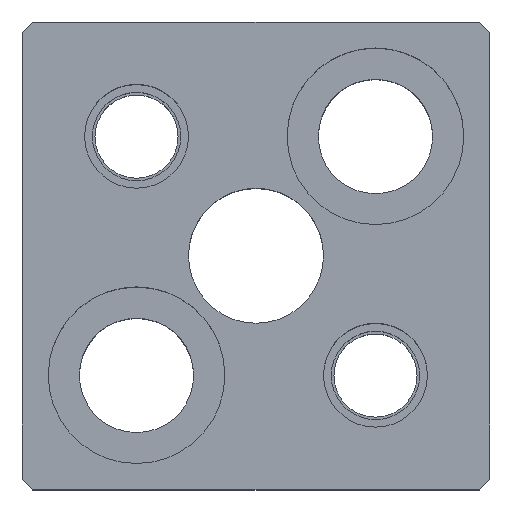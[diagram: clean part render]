
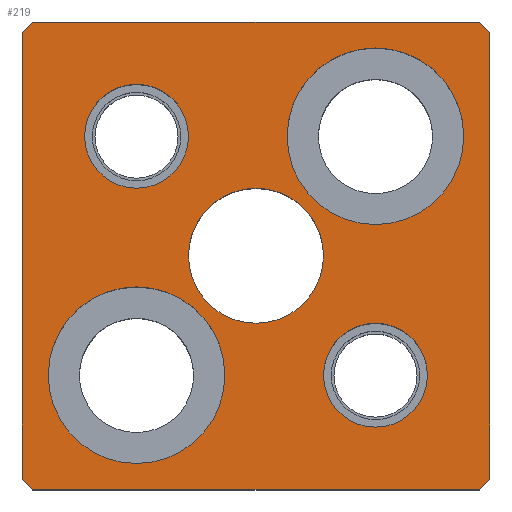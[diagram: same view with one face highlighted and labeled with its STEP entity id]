
A CAD part, top view. The second image highlights one B-rep face of the part: STEP entity #219.
In plain terms, the highlighted planar face has unit normal (0, 0, 1).
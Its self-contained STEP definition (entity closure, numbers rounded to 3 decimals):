
#99=FACE_BOUND('',#325,.T.);
#100=FACE_BOUND('',#326,.T.);
#101=FACE_BOUND('',#327,.T.);
#102=FACE_BOUND('',#328,.T.);
#103=FACE_BOUND('',#329,.T.);
#104=FACE_BOUND('',#330,.T.);
#149=CIRCLE('',#916,5.);
#151=CIRCLE('',#919,5.);
#153=CIRCLE('',#922,5.);
#155=CIRCLE('',#925,5.);
#165=CIRCLE('',#940,8.5);
#166=CIRCLE('',#941,8.5);
#167=CIRCLE('',#942,8.5);
#168=CIRCLE('',#943,8.5);
#169=CIRCLE('',#944,6.5);
#170=CIRCLE('',#945,6.5);
#219=ADVANCED_FACE('',(#99,#100,#101,#102,#103,#104),#258,.T.);
#258=PLANE('',#946);
#325=EDGE_LOOP('',(#461,#462,#463,#464,#465,#466,#467,#468));
#326=EDGE_LOOP('',(#469,#470));
#327=EDGE_LOOP('',(#471,#472));
#328=EDGE_LOOP('',(#473,#474));
#329=EDGE_LOOP('',(#475,#476));
#330=EDGE_LOOP('',(#477,#478));
#461=ORIENTED_EDGE('',*,*,#683,.T.);
#462=ORIENTED_EDGE('',*,*,#680,.T.);
#463=ORIENTED_EDGE('',*,*,#698,.T.);
#464=ORIENTED_EDGE('',*,*,#695,.T.);
#465=ORIENTED_EDGE('',*,*,#692,.T.);
#466=ORIENTED_EDGE('',*,*,#676,.T.);
#467=ORIENTED_EDGE('',*,*,#673,.T.);
#468=ORIENTED_EDGE('',*,*,#669,.T.);
#469=ORIENTED_EDGE('',*,*,#727,.F.);
#470=ORIENTED_EDGE('',*,*,#728,.F.);
#471=ORIENTED_EDGE('',*,*,#729,.F.);
#472=ORIENTED_EDGE('',*,*,#730,.F.);
#473=ORIENTED_EDGE('',*,*,#713,.F.);
#474=ORIENTED_EDGE('',*,*,#709,.F.);
#475=ORIENTED_EDGE('',*,*,#707,.F.);
#476=ORIENTED_EDGE('',*,*,#703,.F.);
#477=ORIENTED_EDGE('',*,*,#731,.T.);
#478=ORIENTED_EDGE('',*,*,#732,.T.);
#595=VERTEX_POINT('',#1264);
#596=VERTEX_POINT('',#1266);
#599=VERTEX_POINT('',#1274);
#601=VERTEX_POINT('',#1280);
#604=VERTEX_POINT('',#1287);
#605=VERTEX_POINT('',#1289);
#612=VERTEX_POINT('',#1312);
#614=VERTEX_POINT('',#1318);
#617=VERTEX_POINT('',#1333);
#618=VERTEX_POINT('',#1334);
#621=VERTEX_POINT('',#1345);
#622=VERTEX_POINT('',#1346);
#633=VERTEX_POINT('',#1381);
#634=VERTEX_POINT('',#1382);
#635=VERTEX_POINT('',#1385);
#636=VERTEX_POINT('',#1386);
#637=VERTEX_POINT('',#1389);
#638=VERTEX_POINT('',#1390);
#669=EDGE_CURVE('',#596,#595,#781,.T.);
#673=EDGE_CURVE('',#599,#596,#785,.T.);
#676=EDGE_CURVE('',#601,#599,#788,.T.);
#680=EDGE_CURVE('',#605,#604,#792,.T.);
#683=EDGE_CURVE('',#595,#605,#795,.T.);
#692=EDGE_CURVE('',#612,#601,#804,.T.);
#695=EDGE_CURVE('',#614,#612,#807,.T.);
#698=EDGE_CURVE('',#604,#614,#810,.T.);
#703=EDGE_CURVE('',#617,#618,#149,.T.);
#707=EDGE_CURVE('',#618,#617,#151,.T.);
#709=EDGE_CURVE('',#621,#622,#153,.T.);
#713=EDGE_CURVE('',#622,#621,#155,.T.);
#727=EDGE_CURVE('',#633,#634,#165,.T.);
#728=EDGE_CURVE('',#634,#633,#166,.T.);
#729=EDGE_CURVE('',#635,#636,#167,.T.);
#730=EDGE_CURVE('',#636,#635,#168,.T.);
#731=EDGE_CURVE('',#637,#638,#169,.T.);
#732=EDGE_CURVE('',#638,#637,#170,.T.);
#781=LINE('',#1265,#843);
#785=LINE('',#1273,#847);
#788=LINE('',#1279,#850);
#792=LINE('',#1288,#854);
#795=LINE('',#1294,#857);
#804=LINE('',#1311,#866);
#807=LINE('',#1317,#869);
#810=LINE('',#1323,#872);
#843=VECTOR('',#1005,1.);
#847=VECTOR('',#1011,1.);
#850=VECTOR('',#1016,1.);
#854=VECTOR('',#1022,1.);
#857=VECTOR('',#1027,1.);
#866=VECTOR('',#1042,1.);
#869=VECTOR('',#1047,1.);
#872=VECTOR('',#1052,1.);
#916=AXIS2_PLACEMENT_3D('',#1332,#1063,#1064);
#919=AXIS2_PLACEMENT_3D('',#1341,#1071,#1072);
#922=AXIS2_PLACEMENT_3D('',#1344,#1077,#1078);
#925=AXIS2_PLACEMENT_3D('',#1353,#1085,#1086);
#940=AXIS2_PLACEMENT_3D('',#1380,#1119,#1120);
#941=AXIS2_PLACEMENT_3D('',#1383,#1121,#1122);
#942=AXIS2_PLACEMENT_3D('',#1384,#1123,#1124);
#943=AXIS2_PLACEMENT_3D('',#1387,#1125,#1126);
#944=AXIS2_PLACEMENT_3D('',#1388,#1127,#1128);
#945=AXIS2_PLACEMENT_3D('',#1391,#1129,#1130);
#946=AXIS2_PLACEMENT_3D('',#1392,#1131,#1132);
#1005=DIRECTION('',(1.,0.,0.));
#1011=DIRECTION('',(0.707,-0.707,0.));
#1016=DIRECTION('',(0.,-1.,0.));
#1022=DIRECTION('',(0.,1.,0.));
#1027=DIRECTION('',(0.707,0.707,0.));
#1042=DIRECTION('',(-0.707,-0.707,0.));
#1047=DIRECTION('',(-1.,0.,0.));
#1052=DIRECTION('',(-0.707,0.707,0.));
#1063=DIRECTION('',(0.,0.,1.));
#1064=DIRECTION('',(-1.,0.,0.));
#1071=DIRECTION('',(0.,0.,1.));
#1072=DIRECTION('',(1.,0.,0.));
#1077=DIRECTION('',(0.,0.,1.));
#1078=DIRECTION('',(-1.,0.,0.));
#1085=DIRECTION('',(0.,0.,1.));
#1086=DIRECTION('',(1.,0.,0.));
#1119=DIRECTION('',(0.,0.,1.));
#1120=DIRECTION('',(1.,0.,0.));
#1121=DIRECTION('',(0.,0.,1.));
#1122=DIRECTION('',(-1.,0.,0.));
#1123=DIRECTION('',(0.,0.,1.));
#1124=DIRECTION('',(1.,0.,0.));
#1125=DIRECTION('',(0.,0.,1.));
#1126=DIRECTION('',(-1.,0.,0.));
#1127=DIRECTION('',(0.,0.,-1.));
#1128=DIRECTION('',(-1.,0.,0.));
#1129=DIRECTION('',(0.,0.,-1.));
#1130=DIRECTION('',(1.,0.,0.));
#1131=DIRECTION('',(0.,0.,1.));
#1132=DIRECTION('',(-1.,0.,0.));
#1264=CARTESIAN_POINT('',(21.5,-22.5,30.));
#1265=CARTESIAN_POINT('',(-21.5,-22.5,30.));
#1266=CARTESIAN_POINT('',(-21.5,-22.5,30.));
#1273=CARTESIAN_POINT('',(-21.5,-22.5,30.));
#1274=CARTESIAN_POINT('',(-22.5,-21.5,30.));
#1279=CARTESIAN_POINT('',(-22.5,21.5,30.));
#1280=CARTESIAN_POINT('',(-22.5,21.5,30.));
#1287=CARTESIAN_POINT('',(22.5,21.5,30.));
#1288=CARTESIAN_POINT('',(22.5,21.5,30.));
#1289=CARTESIAN_POINT('',(22.5,-21.5,30.));
#1294=CARTESIAN_POINT('',(22.5,-21.5,30.));
#1311=CARTESIAN_POINT('',(-22.5,21.5,30.));
#1312=CARTESIAN_POINT('',(-21.5,22.5,30.));
#1317=CARTESIAN_POINT('',(-21.5,22.5,30.));
#1318=CARTESIAN_POINT('',(21.5,22.5,30.));
#1323=CARTESIAN_POINT('',(21.5,22.5,30.));
#1332=CARTESIAN_POINT('',(11.5,-11.5,30.));
#1333=CARTESIAN_POINT('',(11.5,-16.5,30.));
#1334=CARTESIAN_POINT('',(11.5,-6.5,30.));
#1341=CARTESIAN_POINT('',(11.5,-11.5,30.));
#1344=CARTESIAN_POINT('',(-11.5,11.5,30.));
#1345=CARTESIAN_POINT('',(-11.5,6.5,30.));
#1346=CARTESIAN_POINT('',(-11.5,16.5,30.));
#1353=CARTESIAN_POINT('',(-11.5,11.5,30.));
#1380=CARTESIAN_POINT('',(11.5,11.5,30.));
#1381=CARTESIAN_POINT('',(11.5,20.,30.));
#1382=CARTESIAN_POINT('',(11.5,3.,30.));
#1383=CARTESIAN_POINT('',(11.5,11.5,30.));
#1384=CARTESIAN_POINT('',(-11.5,-11.5,30.));
#1385=CARTESIAN_POINT('',(-11.5,-3.,30.));
#1386=CARTESIAN_POINT('',(-11.5,-20.,30.));
#1387=CARTESIAN_POINT('',(-11.5,-11.5,30.));
#1388=CARTESIAN_POINT('',(0.,0.,30.));
#1389=CARTESIAN_POINT('',(0.,6.5,30.));
#1390=CARTESIAN_POINT('',(0.,-6.5,30.));
#1391=CARTESIAN_POINT('',(0.,0.,30.));
#1392=CARTESIAN_POINT('',(21.5,-22.5,30.));
